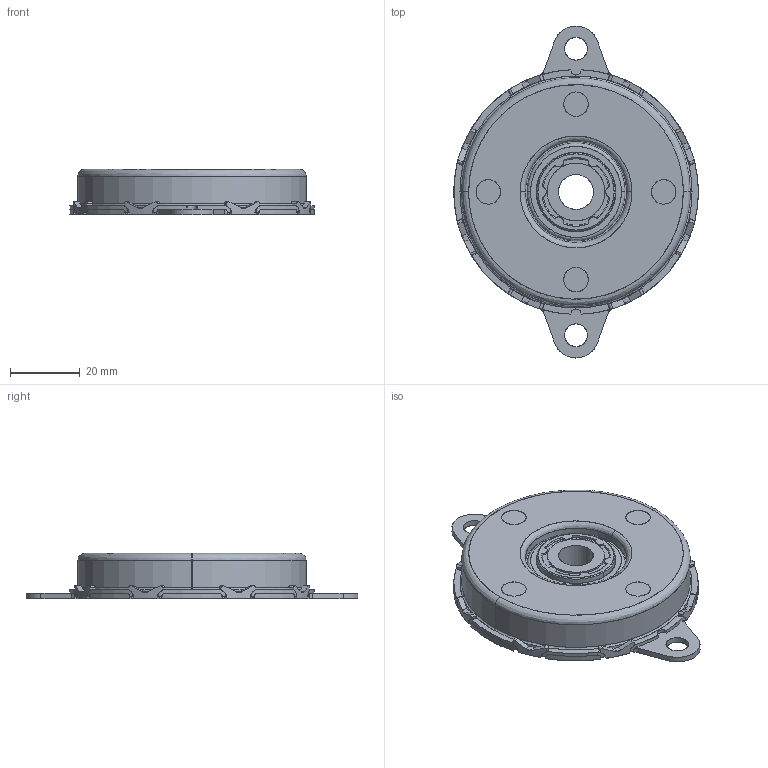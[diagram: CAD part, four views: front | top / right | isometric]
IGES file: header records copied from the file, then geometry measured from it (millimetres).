
Start section: SolidWorks IGES file using analytic representation for surfaces
Bounding box: 70 x 95 x 13 mm (x, y, z)
Surface area: 16253.5 mm2 (no closed solid volume)
Topology: 0 solids, 0 shells, 376 faces, 4207 edges, 4187 vertices
Faces by surface type: revolution 192, bspline 184
